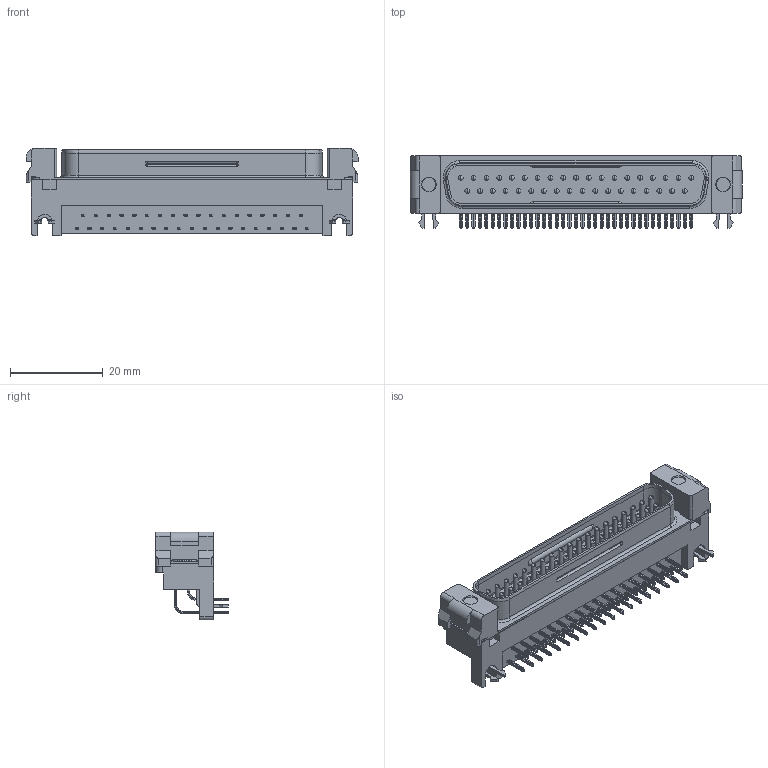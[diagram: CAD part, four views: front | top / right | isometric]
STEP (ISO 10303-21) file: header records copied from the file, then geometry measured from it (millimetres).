
FILE_DESCRIPTION (( 'STEP AP203' ), '1' );
FILE_NAME ('17LE-23370-27(D2BC)-FA.STEP', '2022-02-07T10:26:35', ( '' ), ( '' ), 'SwSTEP 2.0', 'SolidWorks 2018', '' );
FILE_SCHEMA (( 'CONFIG_CONTROL_DESIGN' ));
Length unit declared in the file: millimetre
Products named in the file (1): 17LE-23370-27(D2BC)-FA
Bounding box: 71.6 x 15.7 x 18.9 mm (x, y, z)
Volume: 6628.7 mm3; surface area: 8216.7 mm2
Topology: 1 solids, 3 shells, 2155 faces, 5952 edges, 3801 vertices
Faces by surface type: plane 1010, cylinder 849, torus 210, sphere 78, cone 8
Entity records: 69461 total; most frequent: CARTESIAN_POINT 13501, DIRECTION 11968, ORIENTED_EDGE 11740, EDGE_CURVE 5870, AXIS2_PLACEMENT_3D 4200, VERTEX_POINT 3797, VECTOR 3568, LINE 3568
